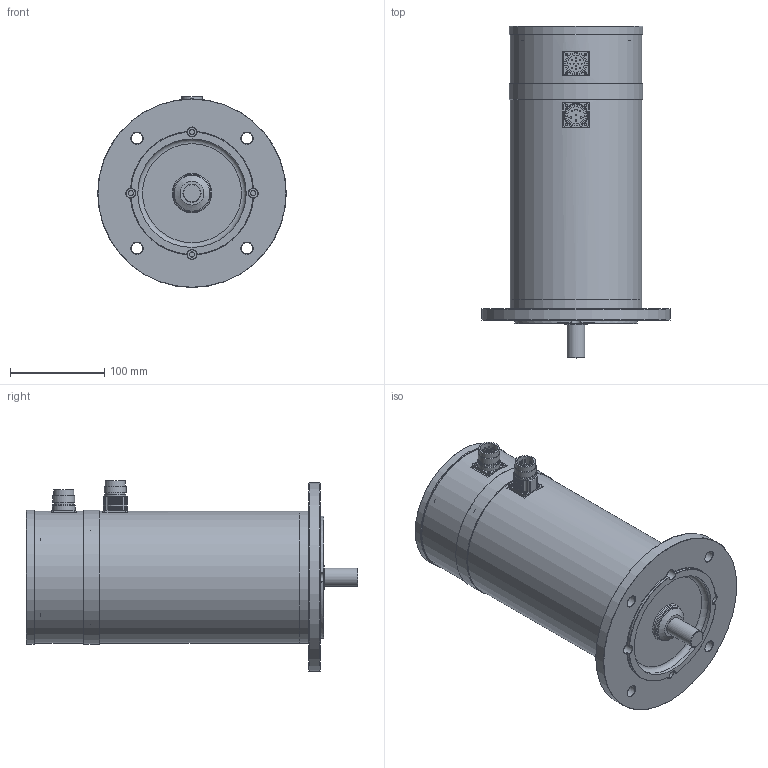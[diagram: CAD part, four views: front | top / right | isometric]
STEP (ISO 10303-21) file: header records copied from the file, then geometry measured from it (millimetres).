
FILE_DESCRIPTION(/* description */ (''),/* implementation_level */ '2;1');
FILE_NAME(/* name */ 'ksa_6x12e_ixx',/* time_stamp */ '2007-03-13T16:13:44+01:00',/* author */ (''),/* organization */ (''),/* preprocessor_version */ 'ST-DEVELOPER v8',/* originating_system */ 'UNIGRAPHICS SOLUTIONS - UNIGRAPHICS 18.0',/* authorisation */ '');
FILE_SCHEMA (('AUTOMOTIVE_DESIGN { 1 2 10303 214 0 1 1 1 }'));
Length unit declared in the file: millimetre
Products named in the file (11): 014261_0; 064258_0; 089259_0; 116160_0; 014260_0; 06331301_0; DIN3760_org_A20x32x7_0; Rotor_SA 64.. E_0; Gehaeuse SA 64.. E_0; 116155_0; KSA648_E-I27_0
Assembly tree (10 placements, depth 2):
  KSA648_E-I27_0
    116155_0
    Gehaeuse SA 64.. E_0
    Rotor_SA 64.. E_0
    DIN3760_org_A20x32x7_0
    06331301_0
    014260_0
    116160_0
    089259_0
    064258_0
    014261_0
Bounding box: 200 x 352 x 202.5 mm (x, y, z)
Volume: 2055124 mm3; surface area: 460397.4 mm2
Topology: 10 solids, 10 shells, 468 faces, 1189 edges, 762 vertices
Faces by surface type: cylinder 216, plane 109, cone 98, torus 24, sphere 20, bspline 1
Full cylindrical faces by diameter (mm): 1 x16, 2 x4, 2.135 x4, 2.7 x8, 3.013 x4, 4.3 x4, 4.351 x8, 5.5 x16, 7 x1, 8.5 x4, 10 x16, 12 x4, 18 x2, 18.52 x1, 18.9 x1, 19 x1, 20 x6, 20.3 x1, 21 x3, 21.5 x2, 23 x4, 24 x2, 26 x1, 29 x1, 32 x2, 38 x1, 40 x3, 47 x2, 70 x1, 105 x1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
Entity records: 12565 total; most frequent: CARTESIAN_POINT 2450, DIRECTION 2228, ORIENTED_EDGE 1518, AXIS2_PLACEMENT_3D 1047, EDGE_LOOP 871, EDGE_CURVE 759, VERTEX_POINT 636, FACE_BOUND 578
